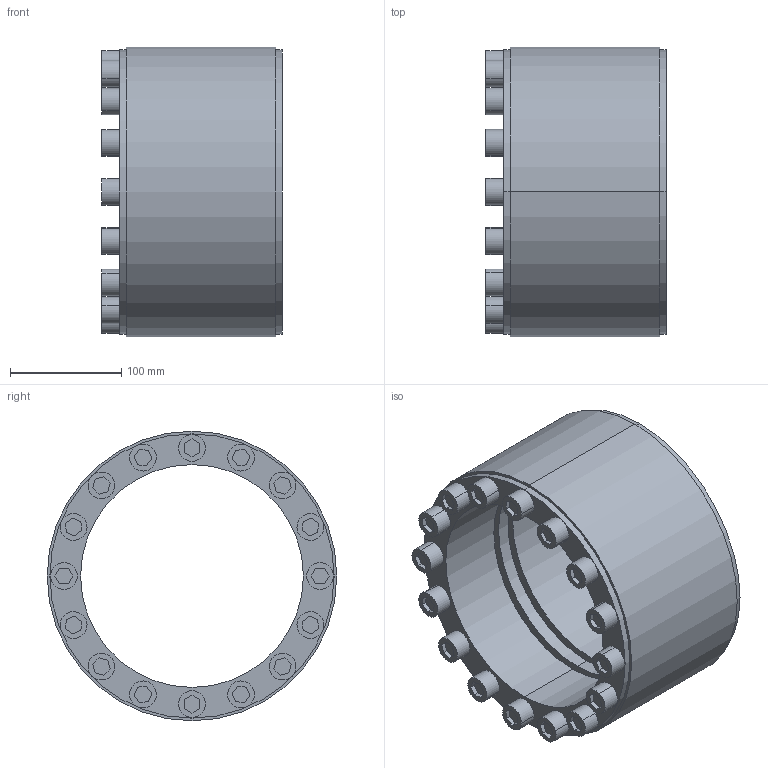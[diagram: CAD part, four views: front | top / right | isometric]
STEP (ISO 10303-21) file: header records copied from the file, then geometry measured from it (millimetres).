
FILE_DESCRIPTION (( 'STEP AP203' ), '1' );
FILE_NAME ('SF-200.STEP', '2009-09-29T17:21:54', ( 'USER' ), ( 'HOME' ), 'SwSTEP 2.0', 'SolidWorks 2007', '' );
FILE_SCHEMA (( 'CONFIG_CONTROL_DESIGN' ));
Length unit declared in the file: millimetre
Products named in the file (1): SF-200
Bounding box: 162 x 260 x 260 mm (x, y, z)
Volume: 3029710.2 mm3; surface area: 544871.5 mm2
Topology: 17 solids, 17 shells, 344 faces, 816 edges, 544 vertices
Faces by surface type: cylinder 176, plane 168
Entity records: 10293 total; most frequent: DIRECTION 1858, CARTESIAN_POINT 1705, ORIENTED_EDGE 1632, EDGE_CURVE 816, AXIS2_PLACEMENT_3D 697, VERTEX_POINT 544, EDGE_LOOP 480, LINE 464
